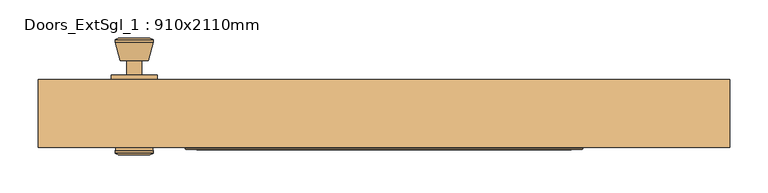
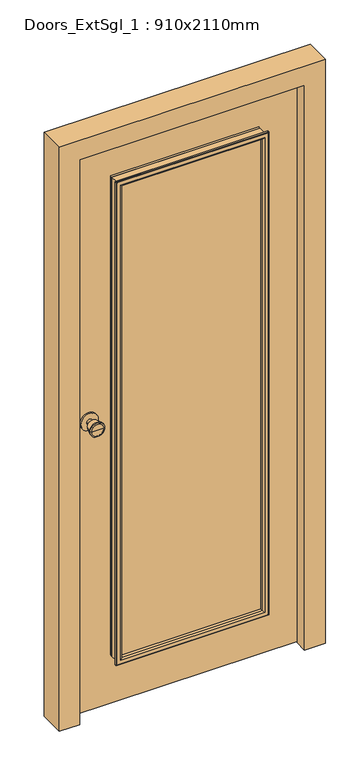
"""IFC4 building model written with IfcOpenShell, lengths in millimetres: door geometry, Doors_ExtSgl_1 : 910x2110mm."""

from ifc_helpers import new_model, si_unit, point, frame, frame_2d, origin, place, context, project, spatial, polyline, circle_curve, ellipse_curve, trimmed, segment, composite_curve, outline, extrude, faceted_brep, source, transform, mapped, element, save
from ifc_brep_helpers import plane_surface, cylinder_surface, revolved_surface, advanced_brep


def doors_extsgl_1_910x2110mm_628282a2(model_context):
    return source(origin(), model_context, "Body", "SolidModel", [
        advanced_brep(
        [(-328.5, 12.0, 1050.0), (-338.5, 12.0, 1050.0), (-318.5, 12.0, 1050.0), (-308.0241324, 61.0, 1050.0), (-348.9758676, 61.0, 1050.0), (-328.5, 61.0, 1050.0), (-303.5, 59.1721319, 1050.0), (-353.5, 59.1721319, 1050.0), (-303.5, 55.7084537, 1050.0), (-353.5, 55.7084537, 1050.0), (-309.863764, 31.0, 1050.0), (-347.136236, 31.0, 1050.0), (-318.5, 31.0, 1050.0), (-338.5, 31.0, 1050.0)],
        [
            (0, 1),
            (1, 2, circle_curve(frame((-328.5, 12.0, 1050.0), z_axis=(0.0, -1.0, 0.0), x_axis=(-1.0, 0.0, 0.0)), 10.0)),
            (2, 0),
            (2, 1, circle_curve(frame((-328.5, 12.0, 1050.0), z_axis=(0.0, -1.0, 0.0), x_axis=(-1.0, 0.0, 0.0)), 10.0)),
            (3, 4, circle_curve(frame((-328.5, 61.0, 1050.0), z_axis=(0.0, 1.0, 0.0), x_axis=(-1.0, 0.0, 0.0)), 20.4758676)),
            (4, 5),
            (5, 3),
            (4, 3, circle_curve(frame((-328.5, 61.0, 1050.0), z_axis=(0.0, 1.0, 0.0), x_axis=(-1.0, 0.0, 0.0)), 20.4758676)),
            (6, 7, circle_curve(frame((-328.5, 59.1721319, 1050.0), z_axis=(0.0, 1.0, 0.0), x_axis=(-1.0, 0.0, 0.0)), 25.0)),
            (7, 4),
            (3, 6),
            (7, 6, circle_curve(frame((-328.5, 59.1721319, 1050.0), z_axis=(0.0, 1.0, 0.0), x_axis=(-1.0, 0.0, 0.0)), 25.0)),
            (8, 9, circle_curve(frame((-328.5, 55.7084537, 1050.0), z_axis=(0.0, 1.0, 0.0), x_axis=(-1.0, 0.0, 0.0)), 25.0)),
            (9, 7),
            (6, 8),
            (9, 8, circle_curve(frame((-328.5, 55.7084537, 1050.0), z_axis=(0.0, 1.0, 0.0), x_axis=(-1.0, 0.0, 0.0)), 25.0)),
            (10, 11, circle_curve(frame((-328.5, 31.0, 1050.0), z_axis=(0.0, 1.0, 0.0), x_axis=(-1.0, 0.0, 0.0)), 18.636236)),
            (11, 9),
            (8, 10),
            (11, 10, circle_curve(frame((-328.5, 31.0, 1050.0), z_axis=(0.0, 1.0, 0.0), x_axis=(-1.0, 0.0, 0.0)), 18.636236)),
            (12, 13, circle_curve(frame((-328.5, 31.0, 1050.0), z_axis=(0.0, 1.0, 0.0), x_axis=(-1.0, 0.0, 0.0)), 10.0)),
            (13, 11),
            (10, 12),
            (13, 12, circle_curve(frame((-328.5, 31.0, 1050.0), z_axis=(0.0, 1.0, 0.0), x_axis=(-1.0, 0.0, 0.0)), 10.0)),
            (1, 13),
            (12, 2),
        ],
        [
            plane_surface(frame((-328.5, 12.0, 1050.0), z_axis=(0.0, -1.0, 0.0), x_axis=(-1.0, 0.0, 0.0))),
            plane_surface(frame((-328.5, 61.0, 1050.0), z_axis=(0.0, 1.0, 0.0), x_axis=(-1.0, 0.0, 0.0))),
            revolved_surface(polyline([(-348.9758676, 61.0, 1050.0), (-353.5, 59.1721319, 1050.0)]), (-328.5, 12.0, 1050.0), (0.0, -1.0, 0.0)),
            cylinder_surface(frame((-328.5, 12.0, 1050.0), z_axis=(0.0, -1.0, 0.0), x_axis=(-1.0, 0.0, 0.0)), 25.0),
            revolved_surface(polyline([(-353.5, 55.7084537, 1050.0), (-347.136236, 31.0, 1050.0)]), (-328.5, 12.0, 1050.0), (0.0, -1.0, 0.0)),
            plane_surface(frame((-328.5, 31.0, 1050.0), z_axis=(0.0, -1.0, 0.0), x_axis=(-1.0, 0.0, 0.0))),
            cylinder_surface(frame((-328.5, 12.0, 1050.0), z_axis=(0.0, -1.0, 0.0), x_axis=(-1.0, 0.0, 0.0)), 10.0),
        ],
        [
            (0, [[1, 2, 3]]),
            (0, [[-3, 4, -1]]),
            (1, [[5, 6, 7]]),
            (1, [[8, -7, -6]]),
            (2, [[9, 10, -5, 11]]),
            (2, [[12, -11, -8, -10]]),
            (3, [[13, 14, -9, 15]]),
            (3, [[16, -15, -12, -14]]),
            (4, [[17, 18, -13, 19]]),
            (4, [[20, -19, -16, -18]]),
            (5, [[21, 22, -17, 23]]),
            (5, [[24, -23, -20, -22]]),
            (6, [[-2, 25, -21, 26]]),
            (6, [[-4, -26, -24, -25]]),
        ],
    ),
        extrude(outline(composite_curve([segment(trimmed(circle_curve(frame_2d((1050.0, -328.5)), 30.0), [point((1050.0, -358.5))], [point((1050.0, -298.5))], False, "CARTESIAN"), True, "CONTINUOUS"), segment(trimmed(circle_curve(frame_2d((1050.0, -328.5)), 30.0), [point((1050.0, -298.5))], [point((1050.0, -358.5))], False, "CARTESIAN"), True, "CONTINUOUS")], self_intersect=False)), frame((0.0, 6.0, 0.0), z_axis=(0.0, 1.0, 0.0), x_axis=(0.0, 0.0, 1.0)), (0.0, 0.0, 1.0), 6.0),
        advanced_brep(
        [(-328.5, -44.0, 1050.0), (-318.5, -44.0, 1050.0), (-338.5, -44.0, 1050.0), (-308.0241324, -93.0, 1050.0), (-328.5, -93.0, 1050.0), (-348.9758676, -93.0, 1050.0), (-303.5, -91.1721319, 1050.0), (-353.5, -91.1721319, 1050.0), (-303.5, -87.7084537, 1050.0), (-353.5, -87.7084537, 1050.0), (-309.863764, -63.0, 1050.0), (-347.136236, -63.0, 1050.0), (-318.5, -63.0, 1050.0), (-338.5, -63.0, 1050.0)],
        [
            (0, 1),
            (1, 2, circle_curve(frame((-328.5, -44.0, 1050.0), z_axis=(0.0, 1.0, 0.0), x_axis=(-1.0, 0.0, 0.0)), 10.0)),
            (2, 0),
            (2, 1, circle_curve(frame((-328.5, -44.0, 1050.0), z_axis=(0.0, 1.0, 0.0), x_axis=(-1.0, 0.0, 0.0)), 10.0)),
            (3, 4),
            (4, 5),
            (5, 3, circle_curve(frame((-328.5, -93.0, 1050.0), z_axis=(0.0, -1.0, 0.0), x_axis=(-1.0, 0.0, 0.0)), 20.4758676)),
            (3, 5, circle_curve(frame((-328.5, -93.0, 1050.0), z_axis=(0.0, -1.0, 0.0), x_axis=(-1.0, 0.0, 0.0)), 20.4758676)),
            (6, 3),
            (5, 7),
            (7, 6, circle_curve(frame((-328.5, -91.1721319, 1050.0), z_axis=(0.0, -1.0, 0.0), x_axis=(-1.0, 0.0, 0.0)), 25.0)),
            (6, 7, circle_curve(frame((-328.5, -91.1721319, 1050.0), z_axis=(0.0, -1.0, 0.0), x_axis=(-1.0, 0.0, 0.0)), 25.0)),
            (8, 6),
            (7, 9),
            (9, 8, circle_curve(frame((-328.5, -87.7084537, 1050.0), z_axis=(0.0, -1.0, 0.0), x_axis=(-1.0, 0.0, 0.0)), 25.0)),
            (8, 9, circle_curve(frame((-328.5, -87.7084537, 1050.0), z_axis=(0.0, -1.0, 0.0), x_axis=(-1.0, 0.0, 0.0)), 25.0)),
            (10, 8),
            (9, 11),
            (11, 10, circle_curve(frame((-328.5, -63.0, 1050.0), z_axis=(0.0, -1.0, 0.0), x_axis=(-1.0, 0.0, 0.0)), 18.636236)),
            (10, 11, circle_curve(frame((-328.5, -63.0, 1050.0), z_axis=(0.0, -1.0, 0.0), x_axis=(-1.0, 0.0, 0.0)), 18.636236)),
            (12, 10),
            (11, 13),
            (13, 12, circle_curve(frame((-328.5, -63.0, 1050.0), z_axis=(0.0, -1.0, 0.0), x_axis=(-1.0, 0.0, 0.0)), 10.0)),
            (12, 13, circle_curve(frame((-328.5, -63.0, 1050.0), z_axis=(0.0, -1.0, 0.0), x_axis=(-1.0, 0.0, 0.0)), 10.0)),
            (1, 12),
            (13, 2),
        ],
        [
            plane_surface(frame((-328.5, -44.0, 1050.0), z_axis=(0.0, 1.0, 0.0), x_axis=(-1.0, 0.0, 0.0))),
            plane_surface(frame((-328.5, -93.0, 1050.0), z_axis=(0.0, -1.0, 0.0), x_axis=(-1.0, 0.0, 0.0))),
            revolved_surface(polyline([(-348.9758676, -93.0, 1050.0), (-353.5, -91.1721319, 1050.0)]), (-328.5, -44.0, 1050.0), (0.0, 1.0, 0.0)),
            cylinder_surface(frame((-328.5, -44.0, 1050.0), z_axis=(0.0, 1.0, 0.0), x_axis=(-1.0, 0.0, 0.0)), 25.0),
            revolved_surface(polyline([(-353.5, -87.7084537, 1050.0), (-347.136236, -63.0, 1050.0)]), (-328.5, -44.0, 1050.0), (0.0, 1.0, 0.0)),
            plane_surface(frame((-328.5, -63.0, 1050.0), z_axis=(0.0, 1.0, 0.0), x_axis=(-1.0, 0.0, 0.0))),
            cylinder_surface(frame((-328.5, -44.0, 1050.0), z_axis=(0.0, 1.0, 0.0), x_axis=(-1.0, 0.0, 0.0)), 10.0),
        ],
        [
            (0, [[1, 2, 3]]),
            (0, [[-3, 4, -1]]),
            (1, [[5, 6, 7]]),
            (1, [[-6, -5, 8]]),
            (2, [[9, -7, 10, 11]]),
            (2, [[-10, -8, -9, 12]]),
            (3, [[13, -11, 14, 15]]),
            (3, [[-14, -12, -13, 16]]),
            (4, [[17, -15, 18, 19]]),
            (4, [[-18, -16, -17, 20]]),
            (5, [[21, -19, 22, 23]]),
            (5, [[-22, -20, -21, 24]]),
            (6, [[25, -23, 26, -2]]),
            (6, [[-26, -24, -25, -4]]),
        ],
    ),
        extrude(outline(composite_curve([segment(trimmed(circle_curve(frame_2d((1050.0, -328.5)), 30.0), [point((1050.0, -358.5))], [point((1050.0, -298.5))], False, "CARTESIAN"), True, "CONTINUOUS"), segment(trimmed(circle_curve(frame_2d((1050.0, -328.5)), 30.0), [point((1050.0, -298.5))], [point((1050.0, -358.5))], False, "CARTESIAN"), True, "CONTINUOUS")], self_intersect=False)), frame((0.0, -44.0, 0.0), z_axis=(0.0, 1.0, 0.0), x_axis=(0.0, 0.0, 1.0)), (0.0, 0.0, 1.0), 6.0),
        faceted_brep([(384.5, -83.0, 0.0), (384.5, -41.0, 0.0), (406.5, -41.0, 0.0), (406.5, 6.0, 0.0), (455.0, 6.0, 0.0), (455.0, -83.0, 0.0), (455.0, -83.0, 2110.0), (-455.0, -83.0, 2110.0), (-455.0, -83.0, 0.0), (-384.5, -83.0, 0.0), (-384.5, -83.0, 2039.5), (384.5, -83.0, 2039.5), (455.0, 6.0, 2110.0), (406.5, 6.0, 2061.5), (-406.5, 6.0, 2061.5), (-406.5, 6.0, 0.0), (-455.0, 6.0, 0.0), (-455.0, 6.0, 2110.0), (406.5, -41.0, 2061.5), (384.5, -41.0, 2039.5), (-384.5, -41.0, 2039.5), (-384.5, -41.0, 0.0), (-406.5, -41.0, 0.0), (-406.5, -41.0, 2061.5)], [[[0, 1, 2, 3, 4, 5]], [[5, 6, 7, 8, 9, 10, 11, 0]], [[4, 12, 6, 5]], [[3, 13, 14, 15, 16, 17, 12, 4]], [[2, 18, 13, 3]], [[1, 19, 20, 21, 22, 23, 18, 2]], [[0, 11, 19, 1]], [[10, 9, 21, 20]], [[9, 8, 16, 15, 22, 21]], [[17, 16, 8, 7]], [[23, 22, 15, 14]], [[12, 17, 7, 6]], [[18, 23, 14, 13]], [[11, 10, 20, 19]]]),
        extrude(outline(polyline([(4.0, 403.5), (2058.5, 403.5), (2058.5, -404.4250294), (4.0, -404.4250294), (4.0, 403.5)]), holes=[polyline([(179.0, -253.5), (1908.5, -253.5), (1908.5, 253.5), (179.0, 253.5), (179.0, -253.5)])]), frame((0.0, -38.0, 0.0), z_axis=(0.0, 1.0, 0.0), x_axis=(0.0, 0.0, 1.0)), (0.0, 0.0, 1.0), 44.0),
        extrude(outline(polyline([(-253.5, -70.0), (-253.5, -46.0), (253.5, -46.0), (253.5, -70.0), (-253.5, -70.0)])), frame((0.0, 0.0, 179.0), z_axis=(0.0, 0.0, 1.0), x_axis=(1.0, 0.0, 0.0)), (0.0, 0.0, 1.0), 1729.5),
        advanced_brep(
        [(-261.5, -84.0, 171.0), (-261.5, -84.0, 1916.5), (-261.5, -80.0, 1916.5), (-261.5, -80.0, 171.0), (-259.5, -86.0, 173.0), (-259.5, -86.0, 1914.5), (-241.5, -81.0, 191.0), (-241.5, -81.0, 1896.5), (-246.5, -86.0, 1901.5), (-246.5, -86.0, 186.0), (-241.5, -70.0, 191.0), (-241.5, -70.0, 1896.5), (-253.5, -80.0, 179.0), (-253.5, -80.0, 1908.5), (-253.5, -70.0, 1908.5), (-253.5, -70.0, 179.0), (261.5, -84.0, 1916.5), (261.5, -80.0, 1916.5), (259.5, -86.0, 1914.5), (241.5, -81.0, 1896.5), (246.5, -86.0, 1901.5), (241.5, -70.0, 1896.5), (253.5, -80.0, 1908.5), (253.5, -70.0, 1908.5), (261.5, -84.0, 171.0), (261.5, -80.0, 171.0), (259.5, -86.0, 173.0), (241.5, -81.0, 191.0), (246.5, -86.0, 186.0), (241.5, -70.0, 191.0), (253.5, -80.0, 179.0), (253.5, -70.0, 179.0)],
        [
            (0, 1),
            (1, 2),
            (2, 3),
            (3, 0),
            (4, 5),
            (5, 1, ellipse_curve(frame((-259.5, -84.0, 1914.5), z_axis=(-0.7071067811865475, 0.0, -0.7071067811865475), x_axis=(0.7071067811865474, 0.0, -0.7071067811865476)), 2.8284271, 2.0)),
            (0, 4, ellipse_curve(frame((-259.5, -84.0, 173.0), z_axis=(-0.7071067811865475, 0.0, 0.7071067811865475), x_axis=(-0.7071067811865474, 0.0, -0.7071067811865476)), 2.8284271, 2.0)),
            (6, 7),
            (7, 8, ellipse_curve(frame((-246.5, -81.0, 1901.5), z_axis=(-0.7071067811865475, 0.0, -0.7071067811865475), x_axis=(0.7071067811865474, 0.0, -0.7071067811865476)), 7.0710678, 5.0)),
            (8, 9),
            (9, 6, ellipse_curve(frame((-246.5, -81.0, 186.0), z_axis=(-0.7071067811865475, 0.0, 0.7071067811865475), x_axis=(-0.7071067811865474, 0.0, -0.7071067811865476)), 7.0710678, 5.0)),
            (10, 11),
            (11, 7),
            (6, 10),
            (12, 13),
            (13, 14),
            (14, 15),
            (15, 12),
            (1, 16),
            (16, 17),
            (17, 2),
            (5, 18),
            (18, 16, ellipse_curve(frame((259.5, -84.0, 1914.5), z_axis=(-0.7071067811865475, 0.0, 0.7071067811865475), x_axis=(-0.7071067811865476, 0.0, -0.7071067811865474)), 2.8284271, 2.0)),
            (7, 19),
            (19, 20, ellipse_curve(frame((246.5, -81.0, 1901.5), z_axis=(-0.7071067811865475, 0.0, 0.7071067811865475), x_axis=(-0.7071067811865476, 0.0, -0.7071067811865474)), 7.0710678, 5.0)),
            (20, 8),
            (11, 21),
            (21, 19),
            (13, 22),
            (22, 23),
            (23, 14),
            (16, 24),
            (24, 25),
            (25, 17),
            (18, 26),
            (26, 24, ellipse_curve(frame((259.5, -84.0, 173.0), z_axis=(0.7071067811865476, 0.0, 0.7071067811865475), x_axis=(-0.7071067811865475, 0.0, 0.7071067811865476)), 2.8284271, 2.0)),
            (19, 27),
            (27, 28, ellipse_curve(frame((246.5, -81.0, 186.0), z_axis=(0.7071067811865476, 0.0, 0.7071067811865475), x_axis=(-0.7071067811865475, 0.0, 0.7071067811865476)), 7.0710678, 5.0)),
            (28, 20),
            (21, 29),
            (29, 27),
            (22, 30),
            (30, 31),
            (31, 23),
            (24, 0),
            (3, 25),
            (26, 4),
            (28, 9),
            (27, 6),
            (29, 10),
            (31, 15),
            (30, 12),
        ],
        [
            plane_surface(frame((-261.5, -80.0, 171.0), z_axis=(-1.0, 0.0, 0.0), x_axis=(0.0, 0.0, 1.0))),
            cylinder_surface(frame((-259.5, -84.0, 179.0), z_axis=(0.0, 0.0, -1.0), x_axis=(-1.0, 0.0, 0.0)), 2.0),
            cylinder_surface(frame((-246.5, -81.0, 179.0), z_axis=(0.0, 0.0, -1.0), x_axis=(-1.0, 0.0, 0.0)), 5.0),
            plane_surface(frame((-241.5, -81.0, 191.0), z_axis=(1.0, 0.0, 0.0), x_axis=(0.0, 0.0, 1.0))),
            plane_surface(frame((-253.5, -70.0, 179.0), z_axis=(-1.0, 0.0, 0.0), x_axis=(0.0, 0.0, 1.0))),
            plane_surface(frame((-261.5, -80.0, 1916.5), z_axis=(0.0, 0.0, 1.0), x_axis=(1.0, 0.0, 0.0))),
            cylinder_surface(frame((-253.5, -84.0, 1914.5), z_axis=(-1.0, 0.0, 0.0), x_axis=(0.0, 0.0, 1.0)), 2.0),
            cylinder_surface(frame((-253.5, -81.0, 1901.5), z_axis=(-1.0, 0.0, 0.0), x_axis=(0.0, 0.0, 1.0)), 5.0),
            plane_surface(frame((-241.5, -81.0, 1896.5), z_axis=(0.0, 0.0, -1.0), x_axis=(1.0, 0.0, 0.0))),
            plane_surface(frame((-253.5, -70.0, 1908.5), z_axis=(0.0, 0.0, 1.0), x_axis=(1.0, 0.0, 0.0))),
            plane_surface(frame((261.5, -80.0, 1916.5), z_axis=(1.0, 0.0, 0.0), x_axis=(0.0, 0.0, -1.0))),
            cylinder_surface(frame((259.5, -84.0, 1908.5), z_axis=(0.0, 0.0, 1.0), x_axis=(1.0, 0.0, 0.0)), 2.0),
            cylinder_surface(frame((246.5, -81.0, 1908.5), z_axis=(0.0, 0.0, 1.0), x_axis=(1.0, 0.0, 0.0)), 5.0),
            plane_surface(frame((241.5, -81.0, 1896.5), z_axis=(-1.0, 0.0, 0.0), x_axis=(0.0, 0.0, -1.0))),
            plane_surface(frame((253.5, -70.0, 1908.5), z_axis=(1.0, 0.0, 0.0), x_axis=(0.0, 0.0, -1.0))),
            plane_surface(frame((261.5, -80.0, 171.0), z_axis=(0.0, 0.0, -1.0), x_axis=(-1.0, 0.0, 0.0))),
            cylinder_surface(frame((253.5, -84.0, 173.0), z_axis=(1.0, 0.0, 0.0), x_axis=(0.0, 0.0, -1.0)), 2.0),
            plane_surface(frame((259.5, -86.0, 173.0), z_axis=(0.0, -1.0, 0.0), x_axis=(-1.0, 0.0, 0.0))),
            cylinder_surface(frame((253.5, -81.0, 186.0), z_axis=(1.0, 0.0, 0.0), x_axis=(0.0, 0.0, -1.0)), 5.0),
            plane_surface(frame((241.5, -81.0, 191.0), z_axis=(0.0, 0.0, 1.0), x_axis=(-1.0, 0.0, 0.0))),
            plane_surface(frame((241.5, -70.0, 191.0), z_axis=(0.0, 1.0, 0.0), x_axis=(-1.0, 0.0, 0.0))),
            plane_surface(frame((253.5, -70.0, 179.0), z_axis=(0.0, 0.0, -1.0), x_axis=(-1.0, 0.0, 0.0))),
            plane_surface(frame((253.5, -80.0, 179.0), z_axis=(0.0, 1.0, 0.0), x_axis=(-1.0, 0.0, 0.0))),
        ],
        [
            (0, [[1, 2, 3, 4]]),
            (1, [[5, 6, -1, 7]]),
            (2, [[8, 9, 10, 11]]),
            (3, [[12, 13, -8, 14]]),
            (4, [[15, 16, 17, 18]]),
            (5, [[19, 20, 21, -2]]),
            (6, [[22, 23, -19, -6]]),
            (7, [[24, 25, 26, -9]]),
            (8, [[27, 28, -24, -13]]),
            (9, [[29, 30, 31, -16]]),
            (10, [[32, 33, 34, -20]]),
            (11, [[35, 36, -32, -23]]),
            (12, [[37, 38, 39, -25]]),
            (13, [[40, 41, -37, -28]]),
            (14, [[42, 43, 44, -30]]),
            (15, [[45, -4, 46, -33]]),
            (16, [[47, -7, -45, -36]]),
            (17, [[-5, -47, -35, -22], [-10, -26, -39, 48]]),
            (18, [[49, -11, -48, -38]]),
            (19, [[50, -14, -49, -41]]),
            (20, [[-17, -31, -44, 51], [-12, -50, -40, -27]]),
            (21, [[52, -18, -51, -43]]),
            (22, [[-3, -21, -34, -46], [-15, -52, -42, -29]]),
        ],
    ),
        advanced_brep(
        [(261.5, -32.0, 171.0), (261.5, -32.0, 1916.5), (261.5, -36.0, 1916.5), (261.5, -36.0, 171.0), (259.5, -30.0, 173.0), (259.5, -30.0, 1914.5), (241.5, -35.0, 191.0), (241.5, -35.0, 1896.5), (246.5, -30.0, 1901.5), (246.5, -30.0, 186.0), (241.5, -46.0, 191.0), (241.5, -46.0, 1896.5), (253.5, -36.0, 179.0), (253.5, -36.0, 1908.5), (253.5, -46.0, 1908.5), (253.5, -46.0, 179.0), (-261.5, -32.0, 1916.5), (-261.5, -36.0, 1916.5), (-259.5, -30.0, 1914.5), (-241.5, -35.0, 1896.5), (-246.5, -30.0, 1901.5), (-241.5, -46.0, 1896.5), (-253.5, -36.0, 1908.5), (-253.5, -46.0, 1908.5), (-261.5, -32.0, 171.0), (-261.5, -36.0, 171.0), (-259.5, -30.0, 173.0), (-241.5, -35.0, 191.0), (-246.5, -30.0, 186.0), (-241.5, -46.0, 191.0), (-253.5, -36.0, 179.0), (-253.5, -46.0, 179.0)],
        [
            (0, 1),
            (1, 2),
            (2, 3),
            (3, 0),
            (4, 5),
            (5, 1, ellipse_curve(frame((259.5, -32.0, 1914.5), z_axis=(0.7071067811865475, 0.0, -0.7071067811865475), x_axis=(-0.7071067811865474, 0.0, -0.7071067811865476)), 2.8284271, 2.0)),
            (0, 4, ellipse_curve(frame((259.5, -32.0, 173.0), z_axis=(0.7071067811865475, 0.0, 0.7071067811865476), x_axis=(0.7071067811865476, 0.0, -0.7071067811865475)), 2.8284271, 2.0)),
            (6, 7),
            (7, 8, ellipse_curve(frame((246.5, -35.0, 1901.5), z_axis=(0.7071067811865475, 0.0, -0.7071067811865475), x_axis=(-0.7071067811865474, 0.0, -0.7071067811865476)), 7.0710678, 5.0)),
            (8, 9),
            (9, 6, ellipse_curve(frame((246.5, -35.0, 186.0), z_axis=(0.7071067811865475, 0.0, 0.7071067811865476), x_axis=(0.7071067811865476, 0.0, -0.7071067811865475)), 7.0710678, 5.0)),
            (10, 11),
            (11, 7),
            (6, 10),
            (12, 13),
            (13, 14),
            (14, 15),
            (15, 12),
            (1, 16),
            (16, 17),
            (17, 2),
            (5, 18),
            (18, 16, ellipse_curve(frame((-259.5, -32.0, 1914.5), z_axis=(0.7071067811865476, 0.0, 0.7071067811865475), x_axis=(0.7071067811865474, 0.0, -0.7071067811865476)), 2.8284271, 2.0)),
            (7, 19),
            (19, 20, ellipse_curve(frame((-246.5, -35.0, 1901.5), z_axis=(0.7071067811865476, 0.0, 0.7071067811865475), x_axis=(0.7071067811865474, 0.0, -0.7071067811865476)), 7.0710678, 5.0)),
            (20, 8),
            (11, 21),
            (21, 19),
            (13, 22),
            (22, 23),
            (23, 14),
            (16, 24),
            (24, 25),
            (25, 17),
            (18, 26),
            (26, 24, ellipse_curve(frame((-259.5, -32.0, 173.0), z_axis=(-0.7071067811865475, 0.0, 0.7071067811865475), x_axis=(0.7071067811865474, 0.0, 0.7071067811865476)), 2.8284271, 2.0)),
            (19, 27),
            (27, 28, ellipse_curve(frame((-246.5, -35.0, 186.0), z_axis=(-0.7071067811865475, 0.0, 0.7071067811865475), x_axis=(0.7071067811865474, 0.0, 0.7071067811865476)), 7.0710678, 5.0)),
            (28, 20),
            (21, 29),
            (29, 27),
            (22, 30),
            (30, 31),
            (31, 23),
            (24, 0),
            (3, 25),
            (26, 4),
            (28, 9),
            (27, 6),
            (29, 10),
            (31, 15),
            (30, 12),
        ],
        [
            plane_surface(frame((261.5, -36.0, 171.0), z_axis=(1.0, 0.0, 0.0), x_axis=(0.0, 0.0, 1.0))),
            cylinder_surface(frame((259.5, -32.0, 179.0), z_axis=(0.0, 0.0, -1.0), x_axis=(1.0, 0.0, 0.0)), 2.0),
            cylinder_surface(frame((246.5, -35.0, 179.0), z_axis=(0.0, 0.0, -1.0), x_axis=(1.0, 0.0, 0.0)), 5.0),
            plane_surface(frame((241.5, -35.0, 191.0), z_axis=(-1.0, 0.0, 0.0), x_axis=(0.0, 0.0, 1.0))),
            plane_surface(frame((253.5, -46.0, 179.0), z_axis=(1.0, 0.0, 0.0), x_axis=(0.0, 0.0, 1.0))),
            plane_surface(frame((261.5, -36.0, 1916.5), z_axis=(0.0, 0.0, 1.0), x_axis=(-1.0, 0.0, 0.0))),
            cylinder_surface(frame((253.5, -32.0, 1914.5), z_axis=(1.0, 0.0, 0.0), x_axis=(0.0, 0.0, 1.0)), 2.0),
            cylinder_surface(frame((253.5, -35.0, 1901.5), z_axis=(1.0, 0.0, 0.0), x_axis=(0.0, 0.0, 1.0)), 5.0),
            plane_surface(frame((241.5, -35.0, 1896.5), z_axis=(0.0, 0.0, -1.0), x_axis=(-1.0, 0.0, 0.0))),
            plane_surface(frame((253.5, -46.0, 1908.5), z_axis=(0.0, 0.0, 1.0), x_axis=(-1.0, 0.0, 0.0))),
            plane_surface(frame((-261.5, -36.0, 1916.5), z_axis=(-1.0, 0.0, 0.0), x_axis=(0.0, 0.0, -1.0))),
            cylinder_surface(frame((-259.5, -32.0, 1908.5), z_axis=(0.0, 0.0, 1.0), x_axis=(-1.0, 0.0, 0.0)), 2.0),
            cylinder_surface(frame((-246.5, -35.0, 1908.5), z_axis=(0.0, 0.0, 1.0), x_axis=(-1.0, 0.0, 0.0)), 5.0),
            plane_surface(frame((-241.5, -35.0, 1896.5), z_axis=(1.0, 0.0, 0.0), x_axis=(0.0, 0.0, -1.0))),
            plane_surface(frame((-253.5, -46.0, 1908.5), z_axis=(-1.0, 0.0, 0.0), x_axis=(0.0, 0.0, -1.0))),
            plane_surface(frame((-261.5, -36.0, 171.0), z_axis=(0.0, 0.0, -1.0), x_axis=(1.0, 0.0, 0.0))),
            cylinder_surface(frame((-253.5, -32.0, 173.0), z_axis=(-1.0, 0.0, 0.0), x_axis=(0.0, 0.0, -1.0)), 2.0),
            plane_surface(frame((-259.5, -30.0, 173.0), z_axis=(0.0, 1.0, 0.0), x_axis=(1.0, 0.0, 0.0))),
            cylinder_surface(frame((-253.5, -35.0, 186.0), z_axis=(-1.0, 0.0, 0.0), x_axis=(0.0, 0.0, -1.0)), 5.0),
            plane_surface(frame((-241.5, -35.0, 191.0), z_axis=(0.0, 0.0, 1.0), x_axis=(1.0, 0.0, 0.0))),
            plane_surface(frame((-241.5, -46.0, 191.0), z_axis=(0.0, -1.0, 0.0), x_axis=(1.0, 0.0, 0.0))),
            plane_surface(frame((-253.5, -46.0, 179.0), z_axis=(0.0, 0.0, -1.0), x_axis=(1.0, 0.0, 0.0))),
            plane_surface(frame((-253.5, -36.0, 179.0), z_axis=(0.0, -1.0, 0.0), x_axis=(1.0, 0.0, 0.0))),
        ],
        [
            (0, [[1, 2, 3, 4]]),
            (1, [[5, 6, -1, 7]]),
            (2, [[8, 9, 10, 11]]),
            (3, [[12, 13, -8, 14]]),
            (4, [[15, 16, 17, 18]]),
            (5, [[19, 20, 21, -2]]),
            (6, [[22, 23, -19, -6]]),
            (7, [[24, 25, 26, -9]]),
            (8, [[27, 28, -24, -13]]),
            (9, [[29, 30, 31, -16]]),
            (10, [[32, 33, 34, -20]]),
            (11, [[35, 36, -32, -23]]),
            (12, [[37, 38, 39, -25]]),
            (13, [[40, 41, -37, -28]]),
            (14, [[42, 43, 44, -30]]),
            (15, [[45, -4, 46, -33]]),
            (16, [[47, -7, -45, -36]]),
            (17, [[-5, -47, -35, -22], [-10, -26, -39, 48]]),
            (18, [[49, -11, -48, -38]]),
            (19, [[50, -14, -49, -41]]),
            (20, [[-17, -31, -44, 51], [-12, -50, -40, -27]]),
            (21, [[52, -18, -51, -43]]),
            (22, [[-3, -21, -34, -46], [-15, -52, -42, -29]]),
        ],
    ),
    ])


if __name__ == "__main__":
    model = new_model("IFC4")
    model_context = context("Model", 3, world=origin())
    ifc_project = project(units=[si_unit("LENGTHUNIT", "METRE", prefix="MILLI")], contexts=[model_context])
    site = spatial("IfcSite", under=ifc_project)
    building = spatial("IfcBuilding", under=site)
    placement = place(None, origin())
    doors_extsgl_1_910x2110mm_shape = doors_extsgl_1_910x2110mm_628282a2(model_context)
    element("IfcDoor", 1, ObjectType="Doors_ExtSgl_1 : 910x2110mm", at=placement, inside=building, context=model_context, shape_type="MappedRepresentation", body=[
        mapped(doors_extsgl_1_910x2110mm_shape, transform((0.0, 0.0, 0.0), x_axis=(1.0, 0.0, 0.0), y_axis=(0.0, 1.0, 0.0), z_axis=(0.0, 0.0, 1.0))),
    ])
    save(model, "model.ifc")
